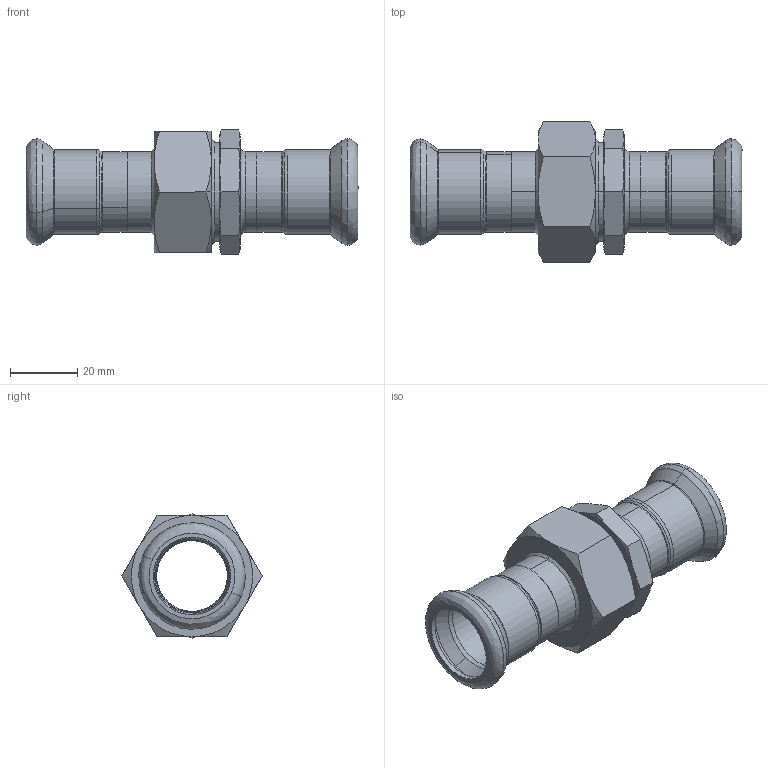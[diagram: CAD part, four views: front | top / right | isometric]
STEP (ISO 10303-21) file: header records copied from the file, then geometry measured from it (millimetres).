
FILE_DESCRIPTION (( 'STEP AP203' ), '1' );
FILE_NAME ('GDA5473.STEP', '2019-01-17T02:16:02', ( '' ), ( '' ), 'SwSTEP 2.0', 'SolidWorks 2015', '' );
FILE_SCHEMA (( 'CONFIG_CONTROL_DESIGN' ));
Length unit declared in the file: millimetre
Products named in the file (7): UN-¢ñ-01¡Á1; ZL-¢ñ-01¡Á1; T-ｉ-01-22; GDA5473; 22; 22｡ﾁ1; 1
Assembly tree (7 placements, depth 3):
  GDA5473
    22｡ﾁ1
    1
    ZL-¢ñ-01¡Á1
    22  x2
      T-ｉ-01-22
    UN-¢ñ-01¡Á1
Bounding box: 98.5 x 41.57 x 36.8 mm (x, y, z)
Volume: 27557.9 mm3; surface area: 24179.9 mm2
Topology: 6 solids, 6 shells, 174 faces, 368 edges, 213 vertices
Faces by surface type: cone 55, cylinder 44, bspline 42, plane 33
Entity records: 5084 total; most frequent: CARTESIAN_POINT 1535, DIRECTION 617, ORIENTED_EDGE 564, EDGE_CURVE 282, AXIS2_PLACEMENT_3D 275, VERTEX_POINT 165, CIRCLE 153, EDGE_LOOP 149
